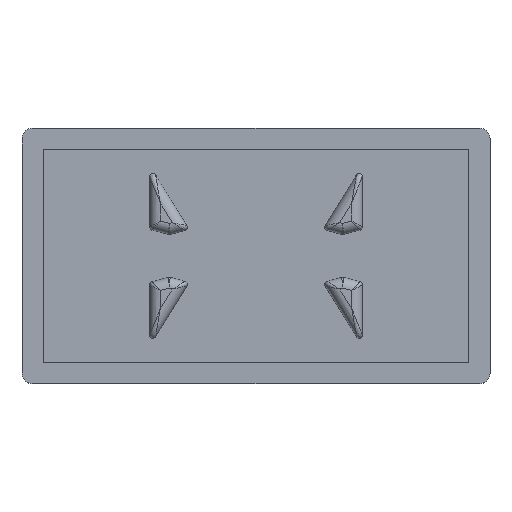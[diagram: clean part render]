
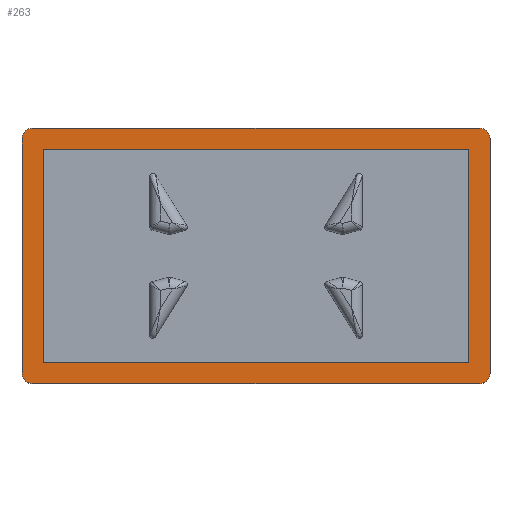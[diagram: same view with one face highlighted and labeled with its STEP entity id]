
A CAD part, top view. The second image highlights one B-rep face of the part: STEP entity #263.
In plain terms, the highlighted planar face has unit normal (0, 0, 1).
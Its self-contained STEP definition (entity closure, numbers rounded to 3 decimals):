
#1 = CARTESIAN_POINT ( 'NONE',  ( 0., 23., 3. ) ) ;
#50 = VECTOR ( 'NONE', #2160, 1000. ) ;
#121 = CARTESIAN_POINT ( 'NONE',  ( 43., 24., 3. ) ) ;
#148 = PLANE ( 'NONE',  #2624 ) ;
#176 = EDGE_CURVE ( 'NONE', #2051, #2324, #2513, .T. ) ;
#209 = AXIS2_PLACEMENT_3D ( 'NONE', #2611, #765, #2445 ) ;
#219 = ORIENTED_EDGE ( 'NONE', *, *, #2593, .T. ) ;
#235 = LINE ( 'NONE', #1302, #1481 ) ;
#249 = CARTESIAN_POINT ( 'NONE',  ( 2., 22., 3. ) ) ;
#262 = CARTESIAN_POINT ( 'NONE',  ( 2., 22., 3. ) ) ;
#263 = ADVANCED_FACE ( 'NONE', ( #822, #1959 ), #148, .T. ) ;
#274 = LINE ( 'NONE', #262, #352 ) ;
#279 = DIRECTION ( 'NONE',  ( -1., 0., 0. ) ) ;
#323 = ORIENTED_EDGE ( 'NONE', *, *, #1059, .T. ) ;
#327 = CARTESIAN_POINT ( 'NONE',  ( 44., 23., 3. ) ) ;
#352 = VECTOR ( 'NONE', #279, 1000. ) ;
#354 = DIRECTION ( 'NONE',  ( 0., 0., 1. ) ) ;
#414 = VECTOR ( 'NONE', #2155, 1000. ) ;
#471 = CARTESIAN_POINT ( 'NONE',  ( 44., 24., 3. ) ) ;
#527 = VERTEX_POINT ( 'NONE', #2274 ) ;
#561 = CARTESIAN_POINT ( 'NONE',  ( 42., 2., 3. ) ) ;
#628 = VERTEX_POINT ( 'NONE', #1 ) ;
#684 = EDGE_LOOP ( 'NONE', ( #2958, #2699, #2040, #2717 ) ) ;
#695 = LINE ( 'NONE', #2534, #2789 ) ;
#720 = CARTESIAN_POINT ( 'NONE',  ( 1., 23., 3. ) ) ;
#764 = VERTEX_POINT ( 'NONE', #2336 ) ;
#765 = DIRECTION ( 'NONE',  ( 0., 0., 1. ) ) ;
#773 = VERTEX_POINT ( 'NONE', #1887 ) ;
#791 = ORIENTED_EDGE ( 'NONE', *, *, #176, .T. ) ;
#822 = FACE_BOUND ( 'NONE', #684, .T. ) ;
#823 = VERTEX_POINT ( 'NONE', #1659 ) ;
#922 = LINE ( 'NONE', #1894, #50 ) ;
#960 = DIRECTION ( 'NONE',  ( 0., 0., 1. ) ) ;
#991 = DIRECTION ( 'NONE',  ( 1., 0., 0. ) ) ;
#992 = EDGE_CURVE ( 'NONE', #823, #1453, #1244, .T. ) ;
#1036 = CARTESIAN_POINT ( 'NONE',  ( 0., 0., 3. ) ) ;
#1059 = EDGE_CURVE ( 'NONE', #1347, #1546, #2540, .T. ) ;
#1079 = EDGE_CURVE ( 'NONE', #2357, #1347, #1485, .T. ) ;
#1088 = DIRECTION ( 'NONE',  ( 0., -1., 0. ) ) ;
#1093 = EDGE_CURVE ( 'NONE', #1453, #773, #2938, .T. ) ;
#1148 = EDGE_CURVE ( 'NONE', #773, #1171, #274, .T. ) ;
#1171 = VERTEX_POINT ( 'NONE', #249 ) ;
#1182 = EDGE_CURVE ( 'NONE', #764, #628, #2760, .T. ) ;
#1188 = CARTESIAN_POINT ( 'NONE',  ( 2., 2., 3. ) ) ;
#1192 = ORIENTED_EDGE ( 'NONE', *, *, #1871, .T. ) ;
#1206 = CARTESIAN_POINT ( 'NONE',  ( 44., 1., 3. ) ) ;
#1212 = ORIENTED_EDGE ( 'NONE', *, *, #2020, .T. ) ;
#1244 = LINE ( 'NONE', #1188, #2823 ) ;
#1302 = CARTESIAN_POINT ( 'NONE',  ( 2., 22., 3. ) ) ;
#1330 = ORIENTED_EDGE ( 'NONE', *, *, #1079, .T. ) ;
#1347 = VERTEX_POINT ( 'NONE', #327 ) ;
#1377 = AXIS2_PLACEMENT_3D ( 'NONE', #1712, #354, #2426 ) ;
#1395 = EDGE_CURVE ( 'NONE', #2324, #527, #922, .T. ) ;
#1453 = VERTEX_POINT ( 'NONE', #561 ) ;
#1481 = VECTOR ( 'NONE', #1088, 1000. ) ;
#1485 = LINE ( 'NONE', #471, #2315 ) ;
#1546 = VERTEX_POINT ( 'NONE', #121 ) ;
#1585 = EDGE_LOOP ( 'NONE', ( #1892, #1212, #1330, #323, #219, #1746, #1192, #791 ) ) ;
#1612 = CARTESIAN_POINT ( 'NONE',  ( 42., 22., 3. ) ) ;
#1621 = DIRECTION ( 'NONE',  ( 0., 1., 0. ) ) ;
#1642 = EDGE_CURVE ( 'NONE', #1171, #823, #235, .T. ) ;
#1659 = CARTESIAN_POINT ( 'NONE',  ( 2., 2., 3. ) ) ;
#1694 = VECTOR ( 'NONE', #1856, 1000. ) ;
#1712 = CARTESIAN_POINT ( 'NONE',  ( 1., 1., 3. ) ) ;
#1746 = ORIENTED_EDGE ( 'NONE', *, *, #1182, .T. ) ;
#1821 = AXIS2_PLACEMENT_3D ( 'NONE', #2539, #1869, #2550 ) ;
#1856 = DIRECTION ( 'NONE',  ( 0., 1., 0. ) ) ;
#1869 = DIRECTION ( 'NONE',  ( 0., 0., 1. ) ) ;
#1871 = EDGE_CURVE ( 'NONE', #628, #2051, #695, .T. ) ;
#1887 = CARTESIAN_POINT ( 'NONE',  ( 42., 22., 3. ) ) ;
#1892 = ORIENTED_EDGE ( 'NONE', *, *, #1395, .T. ) ;
#1894 = CARTESIAN_POINT ( 'NONE',  ( 0., 0., 3. ) ) ;
#1959 = FACE_OUTER_BOUND ( 'NONE', #1585, .T. ) ;
#1983 = AXIS2_PLACEMENT_3D ( 'NONE', #720, #960, #2101 ) ;
#1985 = DIRECTION ( 'NONE',  ( 0., 0., 1. ) ) ;
#2020 = EDGE_CURVE ( 'NONE', #527, #2357, #2643, .T. ) ;
#2040 = ORIENTED_EDGE ( 'NONE', *, *, #1093, .F. ) ;
#2051 = VERTEX_POINT ( 'NONE', #2630 ) ;
#2101 = DIRECTION ( 'NONE',  ( 1., 0., 0. ) ) ;
#2155 = DIRECTION ( 'NONE',  ( -1., 0., 0. ) ) ;
#2160 = DIRECTION ( 'NONE',  ( 1., 0., 0. ) ) ;
#2274 = CARTESIAN_POINT ( 'NONE',  ( 43., 0., 3. ) ) ;
#2308 = LINE ( 'NONE', #2612, #414 ) ;
#2314 = CARTESIAN_POINT ( 'NONE',  ( 1., 0., 3. ) ) ;
#2315 = VECTOR ( 'NONE', #1621, 1000. ) ;
#2324 = VERTEX_POINT ( 'NONE', #2314 ) ;
#2336 = CARTESIAN_POINT ( 'NONE',  ( 1., 24., 3. ) ) ;
#2357 = VERTEX_POINT ( 'NONE', #1206 ) ;
#2426 = DIRECTION ( 'NONE',  ( 1., 0., 0. ) ) ;
#2445 = DIRECTION ( 'NONE',  ( 1., 0., 0. ) ) ;
#2500 = DIRECTION ( 'NONE',  ( 0., -1., 0. ) ) ;
#2513 = CIRCLE ( 'NONE', #1377, 1. ) ;
#2534 = CARTESIAN_POINT ( 'NONE',  ( 0., 24., 3. ) ) ;
#2539 = CARTESIAN_POINT ( 'NONE',  ( 43., 23., 3. ) ) ;
#2540 = CIRCLE ( 'NONE', #1821, 1. ) ;
#2550 = DIRECTION ( 'NONE',  ( 1., 0., 0. ) ) ;
#2593 = EDGE_CURVE ( 'NONE', #1546, #764, #2308, .T. ) ;
#2611 = CARTESIAN_POINT ( 'NONE',  ( 43., 1., 3. ) ) ;
#2612 = CARTESIAN_POINT ( 'NONE',  ( 0., 24., 3. ) ) ;
#2624 = AXIS2_PLACEMENT_3D ( 'NONE', #1036, #1985, #2654 ) ;
#2630 = CARTESIAN_POINT ( 'NONE',  ( 0., 1., 3. ) ) ;
#2643 = CIRCLE ( 'NONE', #209, 1. ) ;
#2654 = DIRECTION ( 'NONE',  ( 1., 0., 0. ) ) ;
#2699 = ORIENTED_EDGE ( 'NONE', *, *, #1148, .F. ) ;
#2717 = ORIENTED_EDGE ( 'NONE', *, *, #992, .F. ) ;
#2760 = CIRCLE ( 'NONE', #1983, 1. ) ;
#2789 = VECTOR ( 'NONE', #2500, 1000. ) ;
#2823 = VECTOR ( 'NONE', #991, 1000. ) ;
#2938 = LINE ( 'NONE', #1612, #1694 ) ;
#2958 = ORIENTED_EDGE ( 'NONE', *, *, #1642, .F. ) ;
